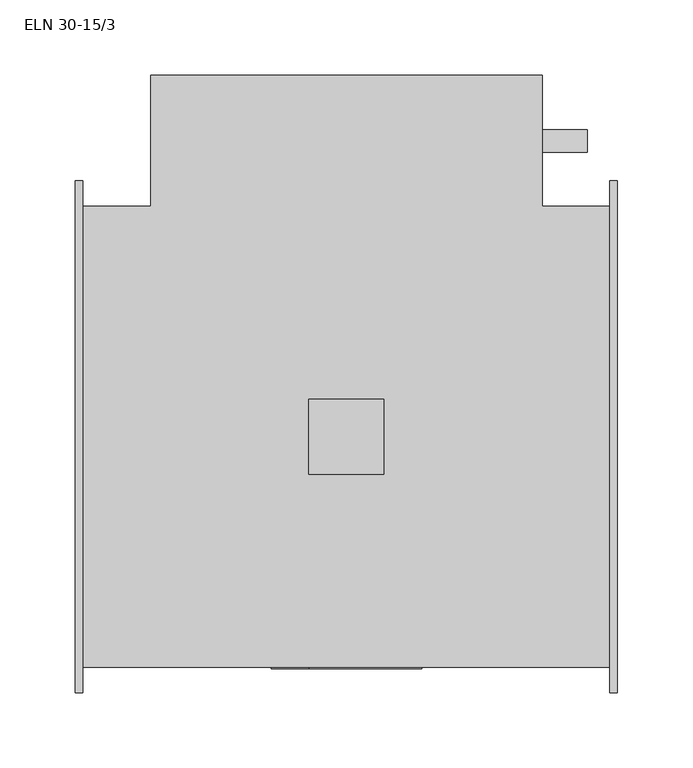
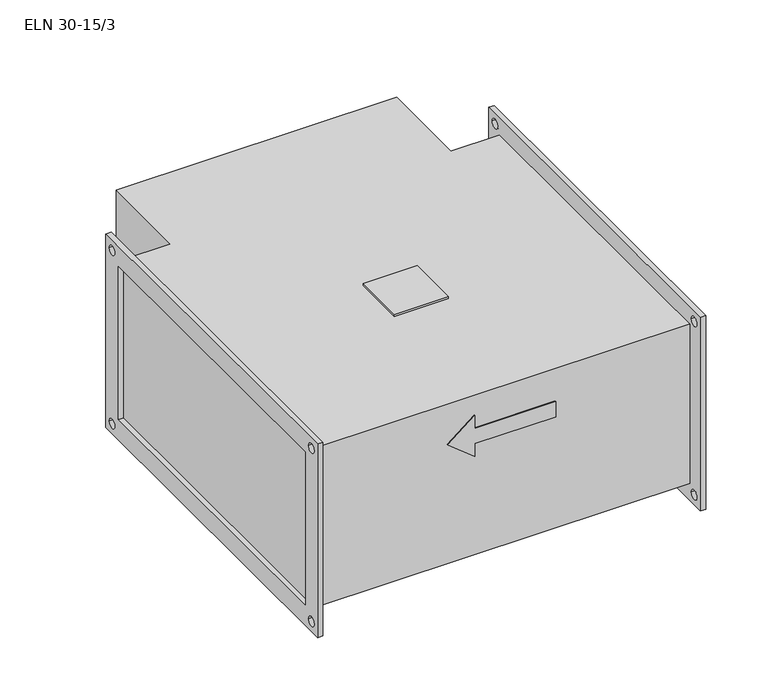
"""IFC4 building model written with IfcOpenShell, lengths in millimetres: proxy geometry, KORF_Нагреватель_Электрический_ELN : ELN 30-15/3."""

from ifc_helpers import new_model, si_unit, point, frame, frame_2d, origin, place, context, project, spatial, polyline, circle_curve, trimmed, segment, composite_curve, outline, extrude, source, transform, mapped, element, save


def eln_30_15_3_45ee2382(model_context):
    return source(origin(), model_context, "Body", "SweptSolid", [
        extrude(outline(polyline([(155.0, -25.0), (155.0, 25.0), (205.0, 25.0), (205.0, -25.0), (155.0, -25.0)])), frame((0.0, 0.0, 78.0), z_axis=(0.0, 0.0, 1.0), x_axis=(1.0, 0.0, 0.0)), (0.0, 0.0, 1.0), 2.0),
        extrude(outline(composite_curve([segment(trimmed(circle_curve(frame_2d((196.5, -39.0)), 7.5), [point((189.0, -39.0))], [point((204.0, -39.0))], False, "CARTESIAN"), True, "CONTINUOUS"), segment(trimmed(circle_curve(frame_2d((196.5, -39.0)), 7.5), [point((204.0, -39.0))], [point((189.0, -39.0))], False, "CARTESIAN"), True, "CONTINUOUS")], self_intersect=False)), frame((310.0, 0.0, 0.0), z_axis=(1.0, 0.0, 0.0), x_axis=(0.0, 1.0, 0.0)), (0.0, 0.0, 1.0), 30.0),
        extrude(outline(composite_curve([segment(trimmed(circle_curve(frame_2d((196.5, -19.0)), 7.5), [point((189.0, -19.0))], [point((204.0, -19.0))], False, "CARTESIAN"), True, "CONTINUOUS"), segment(trimmed(circle_curve(frame_2d((196.5, -19.0)), 7.5), [point((204.0, -19.0))], [point((189.0, -19.0))], False, "CARTESIAN"), True, "CONTINUOUS")], self_intersect=False)), frame((310.0, 0.0, 0.0), z_axis=(1.0, 0.0, 0.0), x_axis=(0.0, 1.0, 0.0)), (0.0, 0.0, 1.0), 30.0),
        extrude(outline(composite_curve([segment(trimmed(circle_curve(frame_2d((196.5, -59.0)), 7.5), [point((189.0, -59.0))], [point((204.0, -59.0))], False, "CARTESIAN"), True, "CONTINUOUS"), segment(trimmed(circle_curve(frame_2d((196.5, -59.0)), 7.5), [point((204.0, -59.0))], [point((189.0, -59.0))], False, "CARTESIAN"), True, "CONTINUOUS")], self_intersect=False)), frame((310.0, 0.0, 0.0), z_axis=(1.0, 0.0, 0.0), x_axis=(0.0, 1.0, 0.0)), (0.0, 0.0, 1.0), 30.0),
        extrude(outline(polyline([(59.0, 155.0), (39.0, 130.0), (19.0, 155.0), (31.5, 155.0), (31.5, 230.0), (46.5, 230.0), (46.5, 155.0), (59.0, 155.0)])), frame((0.0, -154.0, 0.0), z_axis=(0.0, 1.0, 0.0), x_axis=(0.0, 0.0, 1.0)), (0.0, 0.0, 1.0), 1.0),
        extrude(outline(polyline([(355.0, 153.0), (355.0, -153.0), (5.0, -153.0), (5.0, 153.0), (50.0, 153.0), (50.0, 240.0), (310.0, 240.0), (310.0, 153.0), (355.0, 153.0)])), frame((0.0, 0.0, -78.0), z_axis=(0.0, 0.0, 1.0), x_axis=(1.0, 0.0, 0.0)), (0.0, 0.0, 1.0), 156.0),
        extrude(outline(polyline([(-170.0, 95.0), (170.0, 95.0), (170.0, -95.0), (-170.0, -95.0), (-170.0, 95.0)]), holes=[polyline([(-150.0, 75.0), (-150.0, -75.0), (150.0, -75.0), (150.0, 75.0), (-150.0, 75.0)]), composite_curve([segment(trimmed(circle_curve(frame_2d((160.0, 85.0)), 4.5), [point((155.5, 85.0))], [point((164.5, 85.0))], True, "CARTESIAN"), True, "CONTINUOUS"), segment(trimmed(circle_curve(frame_2d((160.0, 85.0)), 4.5), [point((164.5, 85.0))], [point((155.5, 85.0))], True, "CARTESIAN"), True, "CONTINUOUS")], self_intersect=False), composite_curve([segment(trimmed(circle_curve(frame_2d((-160.0, 85.0)), 4.5), [point((-164.5, 85.0))], [point((-155.5, 85.0))], True, "CARTESIAN"), True, "CONTINUOUS"), segment(trimmed(circle_curve(frame_2d((-160.0, 85.0)), 4.5), [point((-155.5, 85.0))], [point((-164.5, 85.0))], True, "CARTESIAN"), True, "CONTINUOUS")], self_intersect=False), composite_curve([segment(trimmed(circle_curve(frame_2d((-160.0, -85.0)), 4.5), [point((-164.5, -85.0))], [point((-155.5, -85.0))], True, "CARTESIAN"), True, "CONTINUOUS"), segment(trimmed(circle_curve(frame_2d((-160.0, -85.0)), 4.5), [point((-155.5, -85.0))], [point((-164.5, -85.0))], True, "CARTESIAN"), True, "CONTINUOUS")], self_intersect=False), composite_curve([segment(trimmed(circle_curve(frame_2d((160.0, -85.0)), 4.5), [point((155.5, -85.0))], [point((164.5, -85.0))], True, "CARTESIAN"), True, "CONTINUOUS"), segment(trimmed(circle_curve(frame_2d((160.0, -85.0)), 4.5), [point((164.5, -85.0))], [point((155.5, -85.0))], True, "CARTESIAN"), True, "CONTINUOUS")], self_intersect=False)]), frame((355.0, 0.0, 0.0), z_axis=(1.0, 0.0, 0.0), x_axis=(0.0, 1.0, 0.0)), (0.0, 0.0, 1.0), 5.0),
        extrude(outline(polyline([(-170.0, 95.0), (170.0, 95.0), (170.0, -95.0), (-170.0, -95.0), (-170.0, 95.0)]), holes=[polyline([(-150.0, 75.0), (-150.0, -75.0), (150.0, -75.0), (150.0, 75.0), (-150.0, 75.0)]), composite_curve([segment(trimmed(circle_curve(frame_2d((160.0, 85.0)), 4.5), [point((155.5, 85.0))], [point((164.5, 85.0))], True, "CARTESIAN"), True, "CONTINUOUS"), segment(trimmed(circle_curve(frame_2d((160.0, 85.0)), 4.5), [point((164.5, 85.0))], [point((155.5, 85.0))], True, "CARTESIAN"), True, "CONTINUOUS")], self_intersect=False), composite_curve([segment(trimmed(circle_curve(frame_2d((-160.0, 85.0)), 4.5), [point((-164.5, 85.0))], [point((-155.5, 85.0))], True, "CARTESIAN"), True, "CONTINUOUS"), segment(trimmed(circle_curve(frame_2d((-160.0, 85.0)), 4.5), [point((-155.5, 85.0))], [point((-164.5, 85.0))], True, "CARTESIAN"), True, "CONTINUOUS")], self_intersect=False), composite_curve([segment(trimmed(circle_curve(frame_2d((-160.0, -85.0)), 4.5), [point((-164.5, -85.0))], [point((-155.5, -85.0))], True, "CARTESIAN"), True, "CONTINUOUS"), segment(trimmed(circle_curve(frame_2d((-160.0, -85.0)), 4.5), [point((-155.5, -85.0))], [point((-164.5, -85.0))], True, "CARTESIAN"), True, "CONTINUOUS")], self_intersect=False), composite_curve([segment(trimmed(circle_curve(frame_2d((160.0, -85.0)), 4.5), [point((155.5, -85.0))], [point((164.5, -85.0))], True, "CARTESIAN"), True, "CONTINUOUS"), segment(trimmed(circle_curve(frame_2d((160.0, -85.0)), 4.5), [point((164.5, -85.0))], [point((155.5, -85.0))], True, "CARTESIAN"), True, "CONTINUOUS")], self_intersect=False)]), frame((0.0, 0.0, 0.0), z_axis=(1.0, 0.0, 0.0), x_axis=(0.0, 1.0, 0.0)), (0.0, 0.0, 1.0), 5.0),
    ])


if __name__ == "__main__":
    model = new_model("IFC4")
    model_context = context("Model", 3, world=origin())
    ifc_project = project(units=[si_unit("LENGTHUNIT", "METRE", prefix="MILLI")], contexts=[model_context])
    site = spatial("IfcSite", under=ifc_project)
    building = spatial("IfcBuilding", under=site)
    placement = place(None, origin())
    eln_30_15_3_shape = eln_30_15_3_45ee2382(model_context)
    element("IfcBuildingElementProxy", 1, Name="KORF_Нагреватель_Электрический_ELN : ELN 30-15/3", ObjectType="KORF_Нагреватель_Электрический_ELN : ELN 30-15/3", at=placement, inside=building, context=model_context, shape_type="MappedRepresentation", body=[
        mapped(eln_30_15_3_shape, transform((0.0, 0.0, 0.0), x_axis=(1.0, 0.0, 0.0), y_axis=(0.0, 1.0, 0.0), z_axis=(0.0, 0.0, 1.0))),
    ])
    save(model, "model.ifc")
